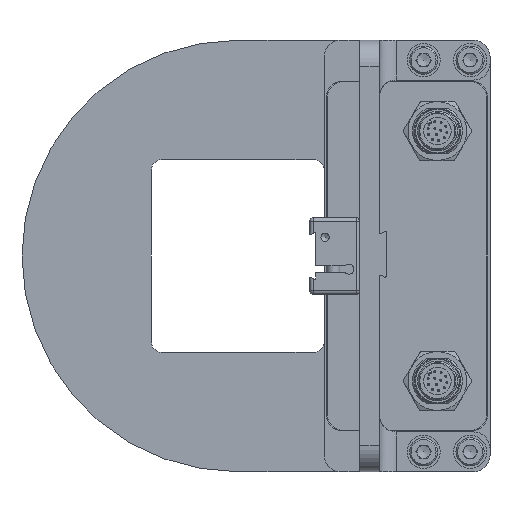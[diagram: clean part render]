
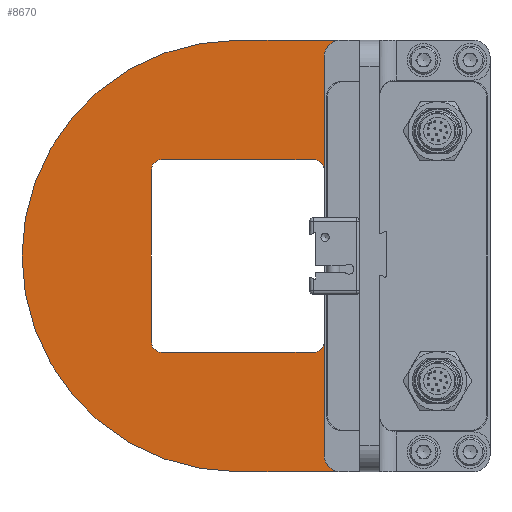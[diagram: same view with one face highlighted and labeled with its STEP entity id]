
A CAD part, front view. The second image highlights one B-rep face of the part: STEP entity #8670.
In plain terms, the highlighted planar face has unit normal (0, -1, 0).
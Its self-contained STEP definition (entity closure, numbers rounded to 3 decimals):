
#292=PLANE('',#9330);
#758=FACE_OUTER_BOUND('',#1273,.T.);
#1273=EDGE_LOOP('',(#6055,#6056,#6057,#6058,#6059,#6060,#6061,#6062,#6063,
#6064,#6065,#6066,#6067,#6068));
#1824=LINE('',#13119,#2477);
#1836=LINE('',#13141,#2489);
#1841=LINE('',#13156,#2494);
#1844=LINE('',#13164,#2497);
#1848=LINE('',#13174,#2501);
#1850=LINE('',#13177,#2503);
#1853=LINE('',#13184,#2506);
#2477=VECTOR('',#10484,1000.);
#2489=VECTOR('',#10500,1000.);
#2494=VECTOR('',#10517,1000.);
#2497=VECTOR('',#10526,1000.);
#2501=VECTOR('',#10536,1000.);
#2503=VECTOR('',#10538,1000.);
#2506=VECTOR('',#10547,1000.);
#3142=CIRCLE('',#9254,65.);
#3146=CIRCLE('',#9263,3.);
#3147=CIRCLE('',#9266,3.);
#3148=CIRCLE('',#9269,3.);
#3149=CIRCLE('',#9272,3.);
#3173=CIRCLE('',#9331,5.);
#3174=CIRCLE('',#9332,5.);
#3670=VERTEX_POINT('',#13110);
#3671=VERTEX_POINT('',#13112);
#3673=VERTEX_POINT('',#13118);
#3681=VERTEX_POINT('',#13139);
#3683=VERTEX_POINT('',#13149);
#3684=VERTEX_POINT('',#13151);
#3685=VERTEX_POINT('',#13155);
#3686=VERTEX_POINT('',#13159);
#3687=VERTEX_POINT('',#13163);
#3688=VERTEX_POINT('',#13167);
#3689=VERTEX_POINT('',#13171);
#3690=VERTEX_POINT('',#13173);
#3691=VERTEX_POINT('',#13176);
#3692=VERTEX_POINT('',#13180);
#4519=EDGE_CURVE('',#3670,#3671,#3142,.T.);
#4522=EDGE_CURVE('',#3673,#3671,#1824,.T.);
#4534=EDGE_CURVE('',#3670,#3681,#1836,.T.);
#4540=EDGE_CURVE('',#3683,#3684,#3146,.T.);
#4542=EDGE_CURVE('',#3684,#3685,#1841,.T.);
#4544=EDGE_CURVE('',#3685,#3686,#3147,.T.);
#4546=EDGE_CURVE('',#3686,#3687,#1844,.T.);
#4548=EDGE_CURVE('',#3687,#3688,#3148,.T.);
#4551=EDGE_CURVE('',#3690,#3689,#1848,.T.);
#4553=EDGE_CURVE('',#3691,#3688,#1850,.T.);
#4555=EDGE_CURVE('',#3690,#3692,#3149,.T.);
#4557=EDGE_CURVE('',#3692,#3683,#1853,.T.);
#4618=EDGE_CURVE('',#3681,#3691,#3173,.T.);
#4619=EDGE_CURVE('',#3689,#3673,#3174,.T.);
#6055=ORIENTED_EDGE('',*,*,#4534,.T.);
#6056=ORIENTED_EDGE('',*,*,#4618,.T.);
#6057=ORIENTED_EDGE('',*,*,#4553,.T.);
#6058=ORIENTED_EDGE('',*,*,#4548,.F.);
#6059=ORIENTED_EDGE('',*,*,#4546,.F.);
#6060=ORIENTED_EDGE('',*,*,#4544,.F.);
#6061=ORIENTED_EDGE('',*,*,#4542,.F.);
#6062=ORIENTED_EDGE('',*,*,#4540,.F.);
#6063=ORIENTED_EDGE('',*,*,#4557,.F.);
#6064=ORIENTED_EDGE('',*,*,#4555,.F.);
#6065=ORIENTED_EDGE('',*,*,#4551,.T.);
#6066=ORIENTED_EDGE('',*,*,#4619,.T.);
#6067=ORIENTED_EDGE('',*,*,#4522,.T.);
#6068=ORIENTED_EDGE('',*,*,#4519,.F.);
#8670=ADVANCED_FACE('',(#758),#292,.F.);
#9254=AXIS2_PLACEMENT_3D('',#13113,#10477,#10478);
#9263=AXIS2_PLACEMENT_3D('',#13152,#10512,#10513);
#9266=AXIS2_PLACEMENT_3D('',#13160,#10521,#10522);
#9269=AXIS2_PLACEMENT_3D('',#13168,#10530,#10531);
#9272=AXIS2_PLACEMENT_3D('',#13181,#10542,#10543);
#9330=AXIS2_PLACEMENT_3D('',#13307,#10693,#10694);
#9331=AXIS2_PLACEMENT_3D('',#13308,#10695,#10696);
#9332=AXIS2_PLACEMENT_3D('',#13309,#10697,#10698);
#10477=DIRECTION('center_axis',(0.,1.,0.));
#10478=DIRECTION('ref_axis',(0.,0.,
1.));
#10484=DIRECTION('',(-1.,0.,0.));
#10500=DIRECTION('',(1.,0.,0.));
#10512=DIRECTION('center_axis',(0.,-1.,0.));
#10513=DIRECTION('ref_axis',(0.,0.,
1.));
#10517=DIRECTION('',(0.,0.,-1.));
#10521=DIRECTION('center_axis',(0.,-1.,0.));
#10522=DIRECTION('ref_axis',(0.,0.,
1.));
#10526=DIRECTION('',(1.,0.,0.));
#10530=DIRECTION('center_axis',(0.,-1.,0.));
#10531=DIRECTION('ref_axis',(0.,0.,
1.));
#10536=DIRECTION('',(0.,0.,1.));
#10538=DIRECTION('',(0.,0.,1.));
#10542=DIRECTION('center_axis',(0.,-1.,0.));
#10543=DIRECTION('ref_axis',(0.,0.,
1.));
#10547=DIRECTION('',(-1.,0.,0.));
#10693=DIRECTION('center_axis',(0.,1.,0.));
#10694=DIRECTION('ref_axis',(0.,0.,
1.));
#10695=DIRECTION('center_axis',(0.,1.,0.));
#10696=DIRECTION('ref_axis',(0.,0.,
1.));
#10697=DIRECTION('center_axis',(0.,1.,0.));
#10698=DIRECTION('ref_axis',(0.,0.,
1.));
#13110=CARTESIAN_POINT('',(0.,0.,-65.));
#13112=CARTESIAN_POINT('',(0.,0.,65.));
#13113=CARTESIAN_POINT('Origin',(0.,0.,
0.));
#13118=CARTESIAN_POINT('',(31.,0.,65.));
#13119=CARTESIAN_POINT('',(26.,0.,65.));
#13139=CARTESIAN_POINT('',(31.,0.,-65.));
#13141=CARTESIAN_POINT('',(26.,0.,-65.));
#13149=CARTESIAN_POINT('',(-23.,0.,29.));
#13151=CARTESIAN_POINT('',(-26.,0.,26.));
#13152=CARTESIAN_POINT('Origin',(-23.,0.,26.));
#13155=CARTESIAN_POINT('',(-26.,0.,-26.));
#13156=CARTESIAN_POINT('',(-26.,0.,-26.));
#13159=CARTESIAN_POINT('',(-23.,0.,-29.));
#13160=CARTESIAN_POINT('Origin',(-23.,0.,-26.));
#13163=CARTESIAN_POINT('',(23.,0.,-29.));
#13164=CARTESIAN_POINT('',(-23.,0.,-29.));
#13167=CARTESIAN_POINT('',(26.,0.,-26.));
#13168=CARTESIAN_POINT('Origin',(23.,0.,-26.));
#13171=CARTESIAN_POINT('',(26.,0.,60.));
#13173=CARTESIAN_POINT('',(26.,0.,26.));
#13174=CARTESIAN_POINT('',(26.,0.,65.));
#13176=CARTESIAN_POINT('',(26.,0.,-60.));
#13177=CARTESIAN_POINT('',(26.,0.,65.));
#13180=CARTESIAN_POINT('',(23.,0.,29.));
#13181=CARTESIAN_POINT('Origin',(23.,0.,26.));
#13184=CARTESIAN_POINT('',(-23.,0.,29.));
#13307=CARTESIAN_POINT('Origin',(0.,0.,
0.));
#13308=CARTESIAN_POINT('Origin',(31.,0.,-60.));
#13309=CARTESIAN_POINT('Origin',(31.,0.,60.));
